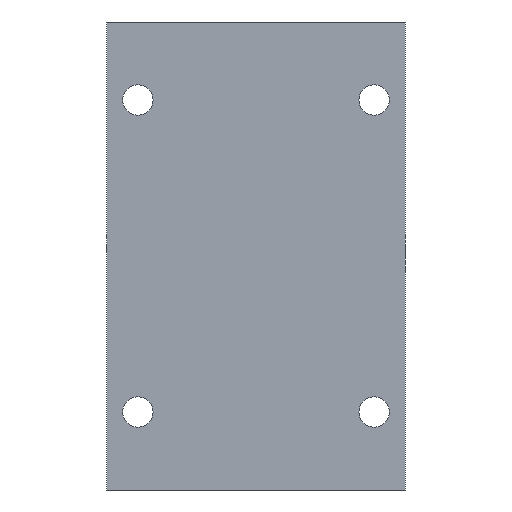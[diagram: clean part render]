
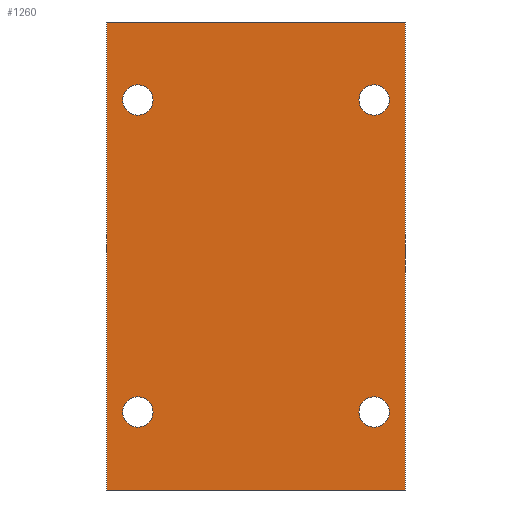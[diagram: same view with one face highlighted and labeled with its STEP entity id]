
A CAD part, front view. The second image highlights one B-rep face of the part: STEP entity #1260.
In plain terms, the highlighted planar face has unit normal (0, -1, 0).
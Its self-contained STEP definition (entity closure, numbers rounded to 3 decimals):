
#14 = EDGE_CURVE ( 'NONE', #702, #480, #1100, .T. ) ;
#19 = EDGE_LOOP ( 'NONE', ( #1297, #603 ) ) ;
#26 = CIRCLE ( 'NONE', #596, 3.4 ) ;
#37 = EDGE_LOOP ( 'NONE', ( #197, #441 ) ) ;
#59 = PLANE ( 'NONE',  #1133 ) ;
#65 = FACE_BOUND ( 'NONE', #19, .T. ) ;
#66 = CARTESIAN_POINT ( 'NONE',  ( 33.5, -30., 52.5 ) ) ;
#83 = DIRECTION ( 'NONE',  ( 0., 0., -1. ) ) ;
#88 = EDGE_CURVE ( 'NONE', #480, #702, #751, .T. ) ;
#108 = EDGE_LOOP ( 'NONE', ( #1287, #355 ) ) ;
#111 = LINE ( 'NONE', #508, #261 ) ;
#134 = CARTESIAN_POINT ( 'NONE',  ( 26.5, -30., -35. ) ) ;
#145 = CARTESIAN_POINT ( 'NONE',  ( -33.5, -30., 52.5 ) ) ;
#151 = LINE ( 'NONE', #351, #868 ) ;
#155 = CARTESIAN_POINT ( 'NONE',  ( -33.5, -30., 52.5 ) ) ;
#173 = CIRCLE ( 'NONE', #1240, 3.4 ) ;
#179 = DIRECTION ( 'NONE',  ( 0., 0., -1. ) ) ;
#180 = DIRECTION ( 'NONE',  ( 0., 0., -1. ) ) ;
#181 = AXIS2_PLACEMENT_3D ( 'NONE', #1157, #288, #179 ) ;
#197 = ORIENTED_EDGE ( 'NONE', *, *, #14, .F. ) ;
#207 = DIRECTION ( 'NONE',  ( 0., -1., 0. ) ) ;
#229 = DIRECTION ( 'NONE',  ( 0., 1., 0. ) ) ;
#246 = DIRECTION ( 'NONE',  ( 0., 0., -1. ) ) ;
#247 = FACE_BOUND ( 'NONE', #108, .T. ) ;
#261 = VECTOR ( 'NONE', #712, 1000. ) ;
#275 = ORIENTED_EDGE ( 'NONE', *, *, #316, .T. ) ;
#281 = AXIS2_PLACEMENT_3D ( 'NONE', #134, #681, #83 ) ;
#288 = DIRECTION ( 'NONE',  ( 0., -1., 0. ) ) ;
#291 = EDGE_CURVE ( 'NONE', #569, #883, #728, .T. ) ;
#295 = CARTESIAN_POINT ( 'NONE',  ( -26.5, -30., -35. ) ) ;
#297 = CARTESIAN_POINT ( 'NONE',  ( -26.5, -30., 35. ) ) ;
#300 = CARTESIAN_POINT ( 'NONE',  ( 26.5, -30., -31.6 ) ) ;
#316 = EDGE_CURVE ( 'NONE', #358, #1256, #860, .T. ) ;
#325 = AXIS2_PLACEMENT_3D ( 'NONE', #1109, #207, #613 ) ;
#329 = CARTESIAN_POINT ( 'NONE',  ( 26.5, -30., 38.4 ) ) ;
#335 = ORIENTED_EDGE ( 'NONE', *, *, #525, .F. ) ;
#339 = EDGE_CURVE ( 'NONE', #1256, #348, #151, .T. ) ;
#348 = VERTEX_POINT ( 'NONE', #953 ) ;
#351 = CARTESIAN_POINT ( 'NONE',  ( -33.5, -30., -52.5 ) ) ;
#355 = ORIENTED_EDGE ( 'NONE', *, *, #1120, .F. ) ;
#358 = VERTEX_POINT ( 'NONE', #1045 ) ;
#359 = CARTESIAN_POINT ( 'NONE',  ( -33.5, -30., 52.5 ) ) ;
#369 = CARTESIAN_POINT ( 'NONE',  ( -26.5, -30., -35. ) ) ;
#379 = DIRECTION ( 'NONE',  ( 0., 0., -1. ) ) ;
#384 = DIRECTION ( 'NONE',  ( 0., -1., 0. ) ) ;
#441 = ORIENTED_EDGE ( 'NONE', *, *, #88, .F. ) ;
#442 = DIRECTION ( 'NONE',  ( 0., 0., -1. ) ) ;
#449 = DIRECTION ( 'NONE',  ( 1., 0., 0. ) ) ;
#460 = FACE_OUTER_BOUND ( 'NONE', #518, .T. ) ;
#480 = VERTEX_POINT ( 'NONE', #329 ) ;
#492 = AXIS2_PLACEMENT_3D ( 'NONE', #873, #384, #180 ) ;
#505 = VERTEX_POINT ( 'NONE', #1237 ) ;
#508 = CARTESIAN_POINT ( 'NONE',  ( 33.5, -30., 52.5 ) ) ;
#514 = DIRECTION ( 'NONE',  ( 0., 0., -1. ) ) ;
#517 = CARTESIAN_POINT ( 'NONE',  ( 26.5, -30., 31.6 ) ) ;
#518 = EDGE_LOOP ( 'NONE', ( #986, #1143, #762, #275 ) ) ;
#525 = EDGE_CURVE ( 'NONE', #883, #569, #173, .T. ) ;
#530 = VERTEX_POINT ( 'NONE', #300 ) ;
#533 = CIRCLE ( 'NONE', #492, 3.4 ) ;
#557 = CARTESIAN_POINT ( 'NONE',  ( -26.5, -30., 38.4 ) ) ;
#569 = VERTEX_POINT ( 'NONE', #1257 ) ;
#596 = AXIS2_PLACEMENT_3D ( 'NONE', #297, #696, #379 ) ;
#597 = ORIENTED_EDGE ( 'NONE', *, *, #291, .F. ) ;
#603 = ORIENTED_EDGE ( 'NONE', *, *, #872, .F. ) ;
#613 = DIRECTION ( 'NONE',  ( 0., 0., -1. ) ) ;
#618 = DIRECTION ( 'NONE',  ( 0., -1., 0. ) ) ;
#648 = FACE_BOUND ( 'NONE', #37, .T. ) ;
#653 = FACE_BOUND ( 'NONE', #863, .T. ) ;
#657 = DIRECTION ( 'NONE',  ( 0., 0., -1. ) ) ;
#658 = CARTESIAN_POINT ( 'NONE',  ( 26.5, -30., 35. ) ) ;
#660 = LINE ( 'NONE', #155, #952 ) ;
#662 = VERTEX_POINT ( 'NONE', #913 ) ;
#681 = DIRECTION ( 'NONE',  ( 0., -1., 0. ) ) ;
#696 = DIRECTION ( 'NONE',  ( 0., -1., 0. ) ) ;
#702 = VERTEX_POINT ( 'NONE', #517 ) ;
#712 = DIRECTION ( 'NONE',  ( 0., 0., -1. ) ) ;
#728 = CIRCLE ( 'NONE', #857, 3.4 ) ;
#743 = VERTEX_POINT ( 'NONE', #66 ) ;
#751 = CIRCLE ( 'NONE', #181, 3.4 ) ;
#762 = ORIENTED_EDGE ( 'NONE', *, *, #1245, .F. ) ;
#830 = CIRCLE ( 'NONE', #281, 3.4 ) ;
#857 = AXIS2_PLACEMENT_3D ( 'NONE', #295, #618, #514 ) ;
#860 = LINE ( 'NONE', #145, #958 ) ;
#862 = DIRECTION ( 'NONE',  ( 0., 0., 1. ) ) ;
#863 = EDGE_LOOP ( 'NONE', ( #335, #597 ) ) ;
#868 = VECTOR ( 'NONE', #449, 1000. ) ;
#870 = EDGE_CURVE ( 'NONE', #505, #1250, #26, .T. ) ;
#872 = EDGE_CURVE ( 'NONE', #1250, #505, #533, .T. ) ;
#873 = CARTESIAN_POINT ( 'NONE',  ( -26.5, -30., 35. ) ) ;
#883 = VERTEX_POINT ( 'NONE', #898 ) ;
#898 = CARTESIAN_POINT ( 'NONE',  ( -26.5, -30., -38.4 ) ) ;
#913 = CARTESIAN_POINT ( 'NONE',  ( 26.5, -30., -38.4 ) ) ;
#952 = VECTOR ( 'NONE', #1233, 1000. ) ;
#953 = CARTESIAN_POINT ( 'NONE',  ( 33.5, -30., -52.5 ) ) ;
#958 = VECTOR ( 'NONE', #442, 1000. ) ;
#986 = ORIENTED_EDGE ( 'NONE', *, *, #339, .T. ) ;
#1000 = AXIS2_PLACEMENT_3D ( 'NONE', #658, #1139, #246 ) ;
#1045 = CARTESIAN_POINT ( 'NONE',  ( -33.5, -30., 52.5 ) ) ;
#1057 = EDGE_CURVE ( 'NONE', #743, #348, #111, .T. ) ;
#1059 = DIRECTION ( 'NONE',  ( 0., -1., 0. ) ) ;
#1074 = EDGE_CURVE ( 'NONE', #662, #530, #1094, .T. ) ;
#1094 = CIRCLE ( 'NONE', #325, 3.4 ) ;
#1100 = CIRCLE ( 'NONE', #1000, 3.4 ) ;
#1109 = CARTESIAN_POINT ( 'NONE',  ( 26.5, -30., -35. ) ) ;
#1120 = EDGE_CURVE ( 'NONE', #530, #662, #830, .T. ) ;
#1127 = CARTESIAN_POINT ( 'NONE',  ( -33.5, -30., -52.5 ) ) ;
#1133 = AXIS2_PLACEMENT_3D ( 'NONE', #359, #229, #862 ) ;
#1139 = DIRECTION ( 'NONE',  ( 0., -1., 0. ) ) ;
#1143 = ORIENTED_EDGE ( 'NONE', *, *, #1057, .F. ) ;
#1157 = CARTESIAN_POINT ( 'NONE',  ( 26.5, -30., 35. ) ) ;
#1233 = DIRECTION ( 'NONE',  ( 1., 0., 0. ) ) ;
#1237 = CARTESIAN_POINT ( 'NONE',  ( -26.5, -30., 31.6 ) ) ;
#1240 = AXIS2_PLACEMENT_3D ( 'NONE', #369, #1059, #657 ) ;
#1245 = EDGE_CURVE ( 'NONE', #358, #743, #660, .T. ) ;
#1250 = VERTEX_POINT ( 'NONE', #557 ) ;
#1256 = VERTEX_POINT ( 'NONE', #1127 ) ;
#1257 = CARTESIAN_POINT ( 'NONE',  ( -26.5, -30., -31.6 ) ) ;
#1260 = ADVANCED_FACE ( 'NONE', ( #247, #65, #653, #648, #460 ), #59, .F. ) ;
#1287 = ORIENTED_EDGE ( 'NONE', *, *, #1074, .F. ) ;
#1297 = ORIENTED_EDGE ( 'NONE', *, *, #870, .F. ) ;
